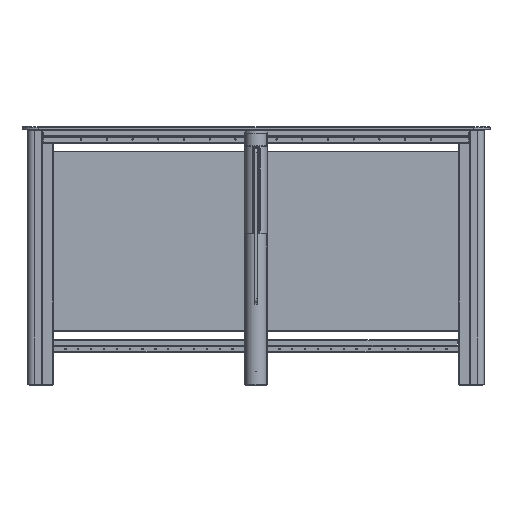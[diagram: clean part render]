
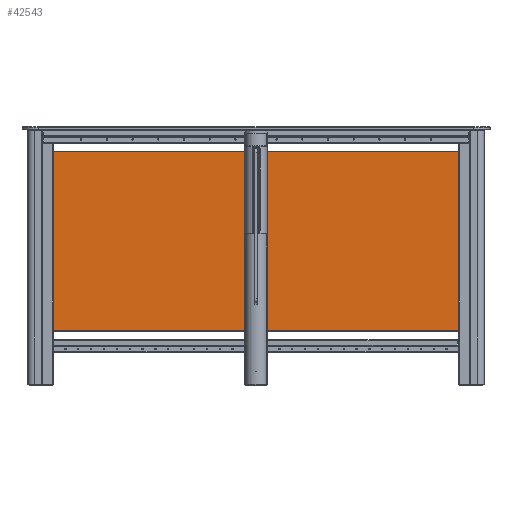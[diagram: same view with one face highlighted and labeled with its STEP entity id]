
A CAD part, left-side view. The second image highlights one B-rep face of the part: STEP entity #42543.
In plain terms, the highlighted planar face has unit normal (-1, 0, 0) as drawn and (0, 0, -1) by its records, which use the part's own axes.
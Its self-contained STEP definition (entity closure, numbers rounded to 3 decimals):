
#6001=LINE('',#73082,#10402);
#6002=LINE('',#73087,#10403);
#6003=LINE('',#73091,#10404);
#6004=LINE('',#73095,#10405);
#10402=VECTOR('',#56932,1000.);
#10403=VECTOR('',#56935,1000.);
#10404=VECTOR('',#56938,1000.);
#10405=VECTOR('',#56941,1000.);
#21192=ORIENTED_EDGE('',*,*,#27607,.T.);
#21193=ORIENTED_EDGE('',*,*,#27608,.T.);
#21194=ORIENTED_EDGE('',*,*,#27609,.T.);
#21195=ORIENTED_EDGE('',*,*,#27610,.T.);
#21196=ORIENTED_EDGE('',*,*,#27611,.T.);
#21197=ORIENTED_EDGE('',*,*,#27612,.T.);
#21198=ORIENTED_EDGE('',*,*,#27613,.T.);
#21199=ORIENTED_EDGE('',*,*,#27614,.T.);
#21200=ORIENTED_EDGE('',*,*,#27615,.T.);
#21201=ORIENTED_EDGE('',*,*,#27616,.T.);
#21202=ORIENTED_EDGE('',*,*,#27617,.T.);
#21203=ORIENTED_EDGE('',*,*,#27618,.T.);
#21204=ORIENTED_EDGE('',*,*,#27619,.T.);
#21205=ORIENTED_EDGE('',*,*,#27620,.T.);
#27607=EDGE_CURVE('',#31609,#31610,#6001,.T.);
#27608=EDGE_CURVE('',#31610,#31611,#32882,.T.);
#27609=EDGE_CURVE('',#31611,#31612,#6002,.T.);
#27610=EDGE_CURVE('',#31612,#31613,#32883,.T.);
#27611=EDGE_CURVE('',#31613,#31614,#6003,.T.);
#27612=EDGE_CURVE('',#31614,#31615,#32884,.T.);
#27613=EDGE_CURVE('',#31615,#31616,#6004,.T.);
#27614=EDGE_CURVE('',#31616,#31609,#32885,.T.);
#27615=EDGE_CURVE('',#31617,#31617,#32886,.F.);
#27616=EDGE_CURVE('',#31618,#31618,#32887,.F.);
#27617=EDGE_CURVE('',#31619,#31619,#32888,.F.);
#27618=EDGE_CURVE('',#31620,#31620,#32889,.F.);
#27619=EDGE_CURVE('',#31621,#31621,#32890,.F.);
#27620=EDGE_CURVE('',#31622,#31622,#32891,.F.);
#31609=VERTEX_POINT('',#73083);
#31610=VERTEX_POINT('',#73084);
#31611=VERTEX_POINT('',#73086);
#31612=VERTEX_POINT('',#73088);
#31613=VERTEX_POINT('',#73090);
#31614=VERTEX_POINT('',#73092);
#31615=VERTEX_POINT('',#73094);
#31616=VERTEX_POINT('',#73096);
#31617=VERTEX_POINT('',#73099);
#31618=VERTEX_POINT('',#73101);
#31619=VERTEX_POINT('',#73103);
#31620=VERTEX_POINT('',#73105);
#31621=VERTEX_POINT('',#73107);
#31622=VERTEX_POINT('',#73109);
#32882=CIRCLE('',#46520,14.);
#32883=CIRCLE('',#46521,14.);
#32884=CIRCLE('',#46522,14.);
#32885=CIRCLE('',#46523,14.);
#32886=CIRCLE('',#46524,7.);
#32887=CIRCLE('',#46525,7.);
#32888=CIRCLE('',#46526,7.);
#32889=CIRCLE('',#46527,7.);
#32890=CIRCLE('',#46528,7.);
#32891=CIRCLE('',#46529,7.);
#35653=EDGE_LOOP('',(#21192,#21193,#21194,#21195,#21196,#21197,#21198,#21199));
#35654=EDGE_LOOP('',(#21200));
#35655=EDGE_LOOP('',(#21201));
#35656=EDGE_LOOP('',(#21202));
#35657=EDGE_LOOP('',(#21203));
#35658=EDGE_LOOP('',(#21204));
#35659=EDGE_LOOP('',(#21205));
#38618=FACE_BOUND('',#35653,.T.);
#38619=FACE_BOUND('',#35654,.T.);
#38620=FACE_BOUND('',#35655,.T.);
#38621=FACE_BOUND('',#35656,.T.);
#38622=FACE_BOUND('',#35657,.T.);
#38623=FACE_BOUND('',#35658,.T.);
#38624=FACE_BOUND('',#35659,.T.);
#40356=PLANE('',#46519);
#42543=ADVANCED_FACE('',(#38618,#38619,#38620,#38621,#38622,#38623,#38624),
#40356,.T.);
#46519=AXIS2_PLACEMENT_3D('',#73081,#56930,#56931);
#46520=AXIS2_PLACEMENT_3D('',#73085,#56933,#56934);
#46521=AXIS2_PLACEMENT_3D('',#73089,#56936,#56937);
#46522=AXIS2_PLACEMENT_3D('',#73093,#56939,#56940);
#46523=AXIS2_PLACEMENT_3D('',#73097,#56942,#56943);
#46524=AXIS2_PLACEMENT_3D('',#73098,#56944,#56945);
#46525=AXIS2_PLACEMENT_3D('',#73100,#56946,#56947);
#46526=AXIS2_PLACEMENT_3D('',#73102,#56948,#56949);
#46527=AXIS2_PLACEMENT_3D('',#73104,#56950,#56951);
#46528=AXIS2_PLACEMENT_3D('',#73106,#56952,#56953);
#46529=AXIS2_PLACEMENT_3D('',#73108,#56954,#56955);
#56930=DIRECTION('',(0.,0.,-1.));
#56931=DIRECTION('',(-1.,0.,0.));
#56932=DIRECTION('',(1.,0.,0.));
#56933=DIRECTION('',(0.,0.,-1.));
#56934=DIRECTION('',(-1.,0.,0.));
#56935=DIRECTION('',(0.,-1.,0.));
#56936=DIRECTION('',(0.,0.,-1.));
#56937=DIRECTION('',(-1.,0.,0.));
#56938=DIRECTION('',(-1.,0.,0.));
#56939=DIRECTION('',(0.,0.,-1.));
#56940=DIRECTION('',(-1.,0.,0.));
#56941=DIRECTION('',(0.,1.,0.));
#56942=DIRECTION('',(0.,0.,-1.));
#56943=DIRECTION('',(-1.,0.,0.));
#56944=DIRECTION('',(0.,0.,-1.));
#56945=DIRECTION('',(-1.,0.,0.));
#56946=DIRECTION('',(0.,0.,-1.));
#56947=DIRECTION('',(-1.,0.,0.));
#56948=DIRECTION('',(0.,0.,-1.));
#56949=DIRECTION('',(-1.,0.,0.));
#56950=DIRECTION('',(0.,0.,-1.));
#56951=DIRECTION('',(-1.,0.,0.));
#56952=DIRECTION('',(0.,0.,-1.));
#56953=DIRECTION('',(-1.,0.,0.));
#56954=DIRECTION('',(0.,0.,-1.));
#56955=DIRECTION('',(-1.,0.,0.));
#73081=CARTESIAN_POINT('',(850.,350.,-4.));
#73082=CARTESIAN_POINT('',(850.,349.,-4.));
#73083=CARTESIAN_POINT('',(-835.,349.,-4.));
#73084=CARTESIAN_POINT('',(835.,349.,-4.));
#73085=CARTESIAN_POINT('',(835.,335.,-4.));
#73086=CARTESIAN_POINT('',(849.,335.,-4.));
#73087=CARTESIAN_POINT('',(849.,350.,-4.));
#73088=CARTESIAN_POINT('',(849.,-335.,-4.));
#73089=CARTESIAN_POINT('',(835.,-335.,-4.));
#73090=CARTESIAN_POINT('',(835.,-349.,-4.));
#73091=CARTESIAN_POINT('',(850.,-349.,-4.));
#73092=CARTESIAN_POINT('',(-835.,-349.,-4.));
#73093=CARTESIAN_POINT('',(-835.,-335.,-4.));
#73094=CARTESIAN_POINT('',(-849.,-335.,-4.));
#73095=CARTESIAN_POINT('',(-849.,350.,-4.));
#73096=CARTESIAN_POINT('',(-849.,335.,-4.));
#73097=CARTESIAN_POINT('',(-835.,335.,-4.));
#73098=CARTESIAN_POINT('',(825.,-250.,-4.));
#73099=CARTESIAN_POINT('',(818.,-250.,-4.));
#73100=CARTESIAN_POINT('',(825.,250.,-4.));
#73101=CARTESIAN_POINT('',(818.,250.,-4.));
#73102=CARTESIAN_POINT('',(-825.,250.,-4.));
#73103=CARTESIAN_POINT('',(-832.,250.,-4.));
#73104=CARTESIAN_POINT('',(-825.,-250.,-4.));
#73105=CARTESIAN_POINT('',(-832.,-250.,-4.));
#73106=CARTESIAN_POINT('',(0.,200.,-4.));
#73107=CARTESIAN_POINT('',(-7.,200.,-4.));
#73108=CARTESIAN_POINT('',(0.,-200.,-4.));
#73109=CARTESIAN_POINT('',(-7.,-200.,-4.));
